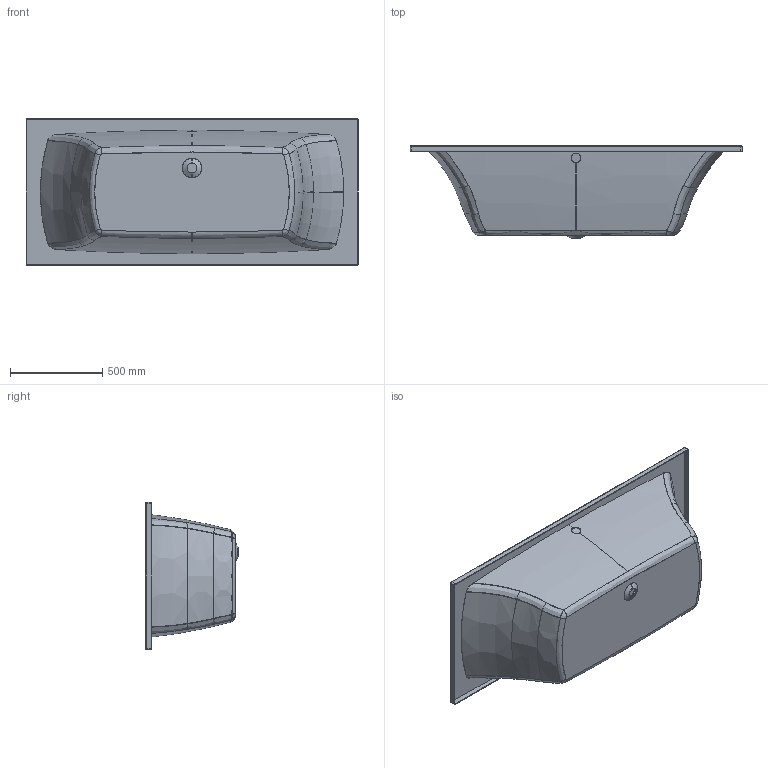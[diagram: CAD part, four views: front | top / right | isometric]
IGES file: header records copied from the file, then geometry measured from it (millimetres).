
Start section: SolidWorks IGES file using analytic representation for surfaces
Global section: file name: D:\Users\M.Szymanski\Desktop\Wanny\Largo\03. do przegrania\gotowe\WP_LA 180x80.IGS; native system: SolidWorks 2011; preprocessor: SolidWorks 2011; author: M.Szymanski; date: 180607.132401; units: millimetre
Bounding box: 1800 x 500.21 x 800 mm (x, y, z)
Surface area: 5709439.1 mm2 (no closed solid volume)
Topology: 0 solids, 0 shells, 130 faces, 1421 edges, 1419 vertices
Faces by surface type: bspline 102, revolution 28
